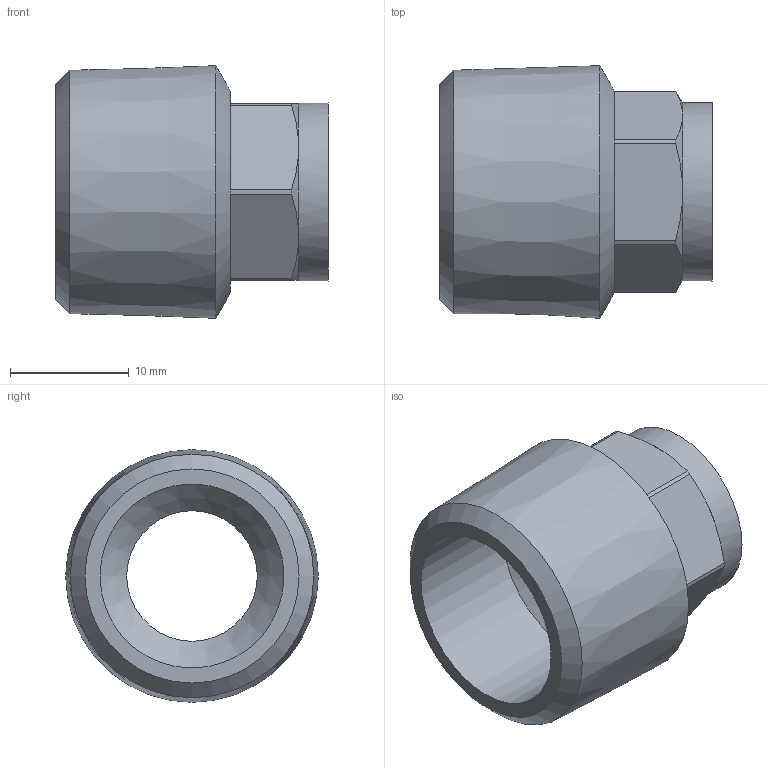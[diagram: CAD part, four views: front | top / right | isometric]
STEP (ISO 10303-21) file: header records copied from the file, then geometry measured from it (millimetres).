
FILE_DESCRIPTION((''),'2;1');
FILE_NAME('\\Lg50001\Groups\SANHA Legnica\Engineering\Public\RYSUNKI\SANHA POLSKA\4243G\step\14243_12-12(3).stp','2008-08-20T10:18:02',('pajchrowski'),(''),'Autodesk Inventor 2008','Autodesk Inventor 2008','');
FILE_SCHEMA(('AUTOMOTIVE_DESIGN { 1 0 10303 214 1 1 1 1 }'));
Length unit declared in the file: millimetre
Products named in the file (1): 14243_12-12(3)
Bounding box: 23 x 21.28 x 21.28 mm (x, y, z)
Volume: 3098.1 mm3; surface area: 2684.1 mm2
Topology: 1 solids, 1 shells, 41 faces, 86 edges, 48 vertices
Faces by surface type: plane 21, cylinder 10, cone 10
Full cylindrical faces by diameter (mm): 11 x1, 12.11 x1, 15 x1, 15.5 x1
Entity records: 1036 total; most frequent: CARTESIAN_POINT 188, DIRECTION 188, ORIENTED_EDGE 152, AXIS2_PLACEMENT_3D 82, EDGE_CURVE 76, EDGE_LOOP 52, VERTEX_POINT 46, FACE_OUTER_BOUND 41
